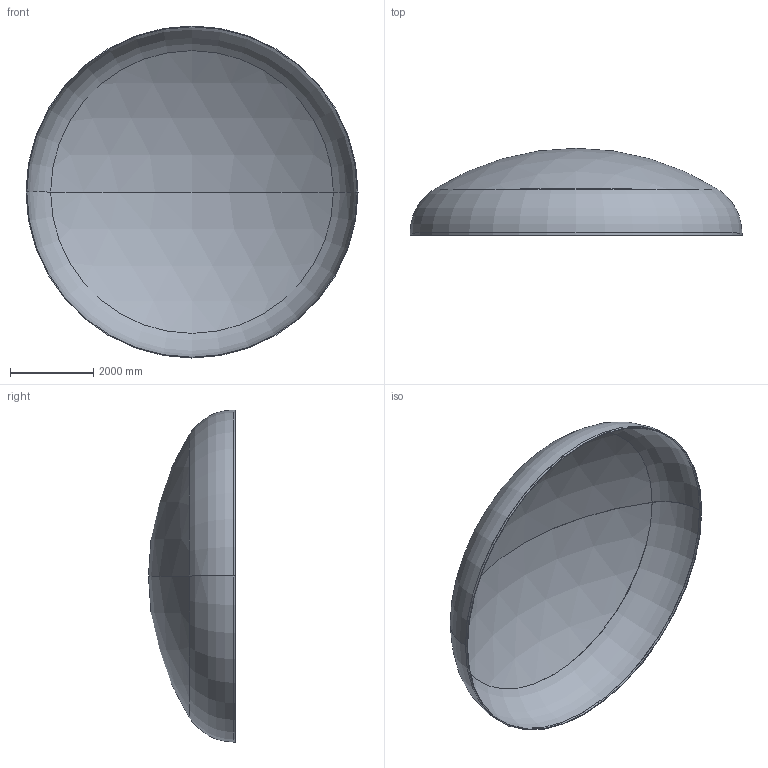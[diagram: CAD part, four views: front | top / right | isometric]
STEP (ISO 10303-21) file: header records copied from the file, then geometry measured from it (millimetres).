
FILE_DESCRIPTION (( 'STEP AP203' ), '1' );
FILE_NAME ('DIN 28013 Korbbogenform_-_Boden DIN 28013 - 8000 x 55 - I - s=18.step', '2016-07-04T10:59:02', ( '' ), ( '' ), 'SwSTEP 2.0', 'SolidWorks 2013', '' );
FILE_SCHEMA (( 'CONFIG_CONTROL_DESIGN' ));
Length unit declared in the file: millimetre
Products named in the file (1): DIN 28013 Korbbogenform_-_Boden DIN 28013 - 8000 x 55 - I - s=18
Bounding box: 8000 x 2096.31 x 8000 mm (x, y, z)
Volume: 1273922494.8 mm3; surface area: 141998935.5 mm2
Topology: 1 solids, 1 shells, 13 faces, 24 edges, 14 vertices
Faces by surface type: torus 4, cylinder 4, sphere 4, plane 1
Entity records: 407 total; most frequent: DIRECTION 72, CARTESIAN_POINT 52, ORIENTED_EDGE 48, AXIS2_PLACEMENT_3D 34, EDGE_CURVE 24, CIRCLE 20, EDGE_LOOP 14, VERTEX_POINT 14
